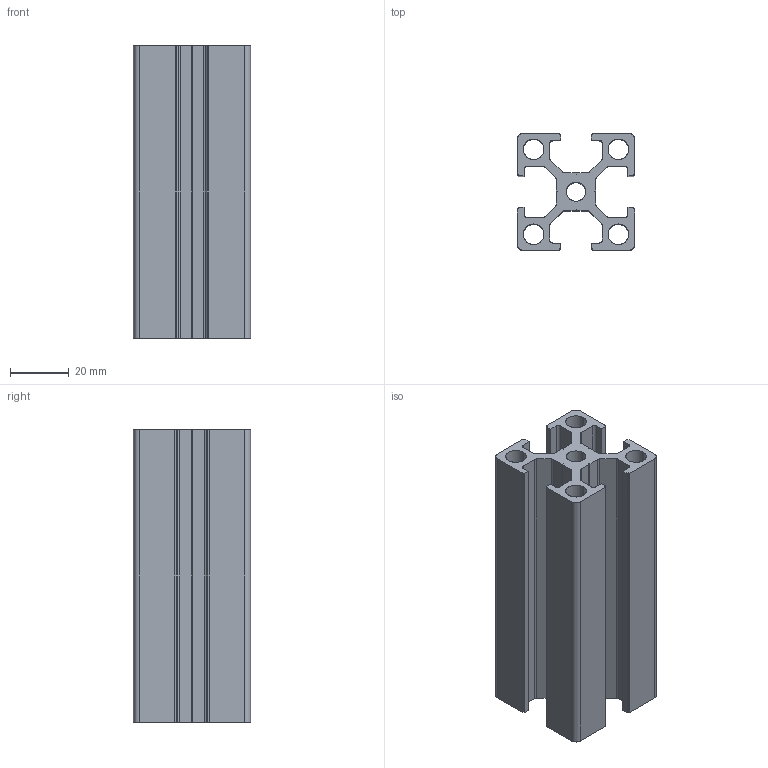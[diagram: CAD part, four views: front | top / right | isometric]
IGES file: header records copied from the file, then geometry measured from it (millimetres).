
Start section: SolidWorks IGES file using analytic representation for surfaces
Global section: file name: C:\Documents and Settings\URETIM3\Desktop\yeni katalog tolgay düzenli\C kataloðu\40x40 eloksallý sigma alüminyum profil\765 040 041.IGS; native system: SolidWorks 2006 by SolidWorks Corporation; preprocessor: SolidWorks 2006 by SolidWorks Corporation; author: URETIM3; date: 060912.100912; units: millimetre
Bounding box: 40 x 40 x 100 mm (x, y, z)
Surface area: 41962.7 mm2 (no closed solid volume)
Topology: 0 solids, 0 shells, 112 faces, 1224 edges, 1224 vertices
Faces by surface type: bspline 74, revolution 38
